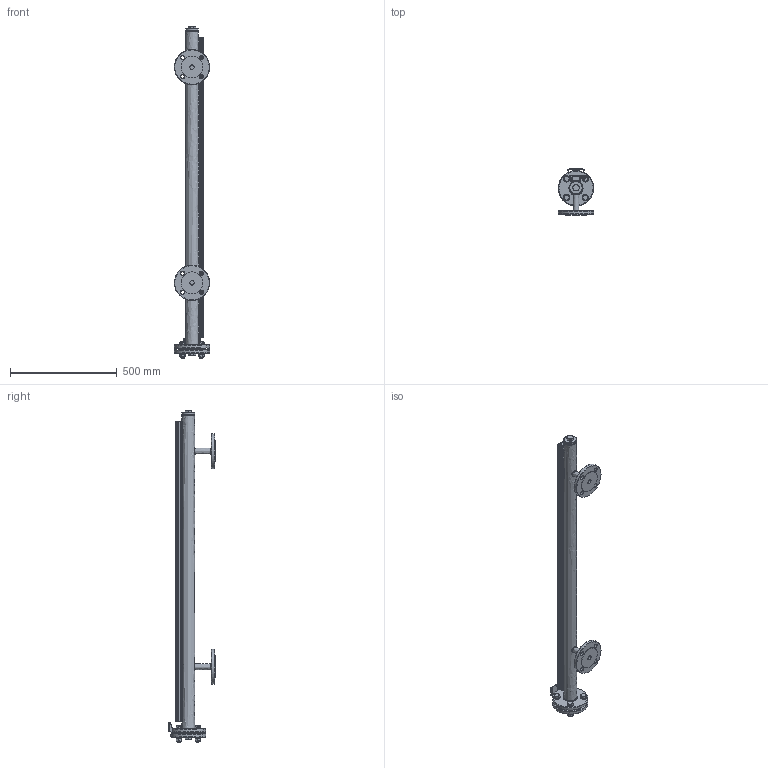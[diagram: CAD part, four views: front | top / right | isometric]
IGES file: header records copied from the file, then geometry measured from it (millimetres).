
Global section: file name: ML_E_1; native system: Autodesk Inventor 2015; preprocessor: unknown; author: aantal; date: 20151021.144337; units: millimetre
Bounding box: 165 x 219.5 x 1554.5 mm (x, y, z)
Volume: 3377198.2 mm3; surface area: 1576733.3 mm2
Topology: 33 solids, 33 shells, 943 faces, 2450 edges, 1614 vertices
Faces by surface type: bspline 943
